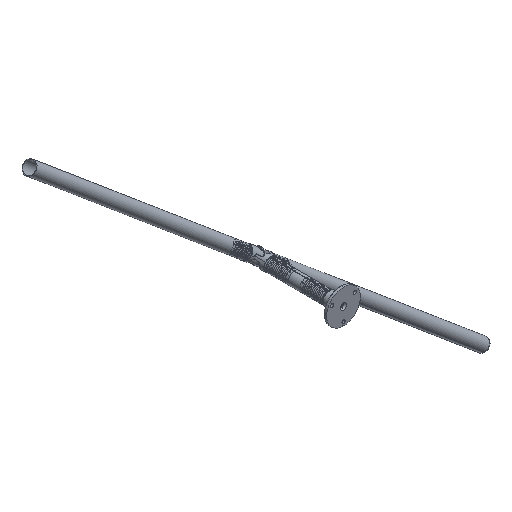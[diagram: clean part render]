
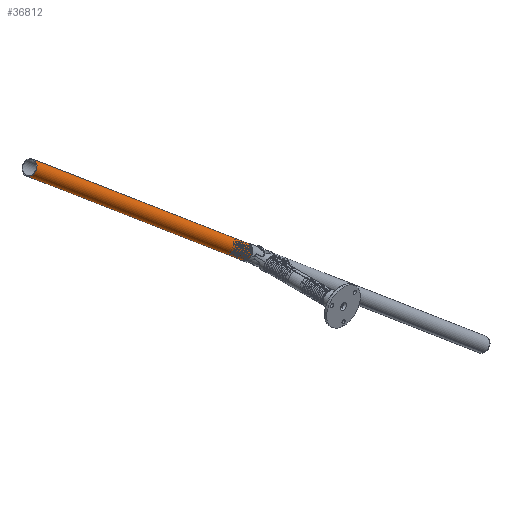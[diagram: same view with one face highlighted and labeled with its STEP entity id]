
A CAD part, isometric view. The second image highlights one B-rep face of the part: STEP entity #36812.
In plain terms, the highlighted cylindrical face has radius 13.716 mm (diameter 27.432 mm), a partial arc.
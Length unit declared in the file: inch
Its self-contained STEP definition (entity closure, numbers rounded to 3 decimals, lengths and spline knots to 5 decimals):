
#5 = CARTESIAN_POINT ( 'NONE',  ( -24., 0., -0.54 ) ) ;
#1810 = CARTESIAN_POINT ( 'NONE',  ( 0., 0., 0. ) ) ;
#1944 = CIRCLE ( 'NONE', #22796, 0.54 ) ;
#3074 = DIRECTION ( 'NONE',  ( 1., 0., 0. ) ) ;
#3877 = EDGE_LOOP ( 'NONE', ( #19790, #27414, #35128, #14594 ) ) ;
#4358 = CYLINDRICAL_SURFACE ( 'NONE', #15202, 0.54 ) ;
#4965 = DIRECTION ( 'NONE',  ( 1., 0., 0. ) ) ;
#5123 = VECTOR ( 'NONE', #3074, 39.37008 ) ;
#6259 = VERTEX_POINT ( 'NONE', #32871 ) ;
#8208 = VERTEX_POINT ( 'NONE', #29706 ) ;
#8645 = CARTESIAN_POINT ( 'NONE',  ( -24., 0., 0.54 ) ) ;
#9742 = EDGE_CURVE ( 'NONE', #6259, #8208, #1944, .T. ) ;
#9918 = DIRECTION ( 'NONE',  ( 1., 0., 0. ) ) ;
#9930 = VECTOR ( 'NONE', #12392, 39.37008 ) ;
#10183 = EDGE_CURVE ( 'NONE', #39589, #30228, #36356, .T. ) ;
#11182 = DIRECTION ( 'NONE',  ( 1., 0., 0. ) ) ;
#12392 = DIRECTION ( 'NONE',  ( 1., 0., 0. ) ) ;
#14594 = ORIENTED_EDGE ( 'NONE', *, *, #9742, .F. ) ;
#15202 = AXIS2_PLACEMENT_3D ( 'NONE', #1810, #4965, #20677 ) ;
#18307 = LINE ( 'NONE', #21767, #9930 ) ;
#19215 = EDGE_CURVE ( 'NONE', #39589, #6259, #24824, .T. ) ;
#19790 = ORIENTED_EDGE ( 'NONE', *, *, #19215, .F. ) ;
#19898 = AXIS2_PLACEMENT_3D ( 'NONE', #30008, #11182, #33157 ) ;
#20149 = FACE_OUTER_BOUND ( 'NONE', #3877, .T. ) ;
#20677 = DIRECTION ( 'NONE',  ( 0., 0., -1. ) ) ;
#21767 = CARTESIAN_POINT ( 'NONE',  ( 0., 0., -0.54 ) ) ;
#22796 = AXIS2_PLACEMENT_3D ( 'NONE', #28780, #9918, #31938 ) ;
#24824 = LINE ( 'NONE', #40699, #5123 ) ;
#27414 = ORIENTED_EDGE ( 'NONE', *, *, #10183, .T. ) ;
#28780 = CARTESIAN_POINT ( 'NONE',  ( 0., 0., 0. ) ) ;
#29001 = EDGE_CURVE ( 'NONE', #30228, #8208, #18307, .T. ) ;
#29706 = CARTESIAN_POINT ( 'NONE',  ( 0., 0., -0.54 ) ) ;
#30008 = CARTESIAN_POINT ( 'NONE',  ( -24., 0., 0. ) ) ;
#30228 = VERTEX_POINT ( 'NONE', #5 ) ;
#31938 = DIRECTION ( 'NONE',  ( 0., 0., -1. ) ) ;
#32871 = CARTESIAN_POINT ( 'NONE',  ( 0., 0., 0.54 ) ) ;
#33157 = DIRECTION ( 'NONE',  ( 0., 0., -1. ) ) ;
#35128 = ORIENTED_EDGE ( 'NONE', *, *, #29001, .T. ) ;
#36356 = CIRCLE ( 'NONE', #19898, 0.54 ) ;
#36812 = ADVANCED_FACE ( 'NONE', ( #20149 ), #4358, .T. ) ;
#39589 = VERTEX_POINT ( 'NONE', #8645 ) ;
#40699 = CARTESIAN_POINT ( 'NONE',  ( 0., 0., 0.54 ) ) ;
